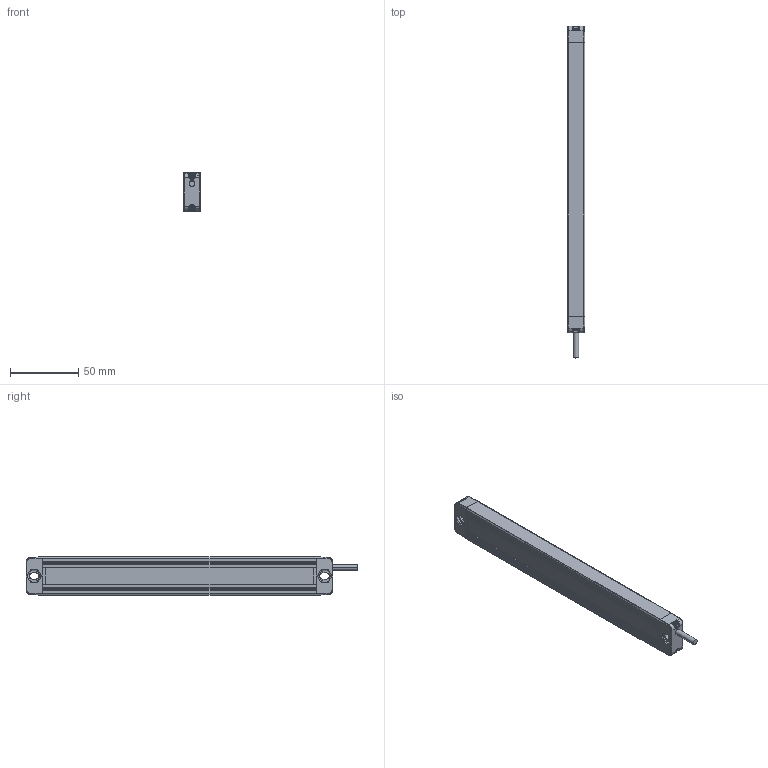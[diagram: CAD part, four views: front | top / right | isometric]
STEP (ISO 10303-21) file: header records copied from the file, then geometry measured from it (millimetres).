
FILE_DESCRIPTION((''),'2;1');
FILE_NAME('EB13-0320_ASM','2021-07-12T16:48:59',('18720616900'),(''),'CREO PARAMETRIC BY PTC INC, 2019010','CREO PARAMETRIC BY PTC INC, 2019010','');
FILE_SCHEMA(('CONFIG_CONTROL_DESIGN'));
Products named in the file (7): EB1300; 000; 0002; 0004; EB13-0320_ASM
Assembly tree (9 placements, depth 2):
  EB13-0320_ASM
    EB1300
    000
    0002
    000
    0004  x4
    000
Bounding box: 13 x 242.4 x 28 mm (x, y, z)
Volume: 82912.8 mm3; surface area: 31382.6 mm2
Topology: 9 solids, 27 shells, 1032 faces, 3520 edges, 2523 vertices
Faces by surface type: cylinder 544, plane 295, bspline 118, torus 40, sphere 31, cone 4
Entity records: 52594 total; most frequent: CARTESIAN_POINT 37957, ORIENTED_EDGE 3370, DIRECTION 2501, EDGE_CURVE 1685, VERTEX_POINT 1150, AXIS2_PLACEMENT_3D 849, VECTOR 803, LINE 803
